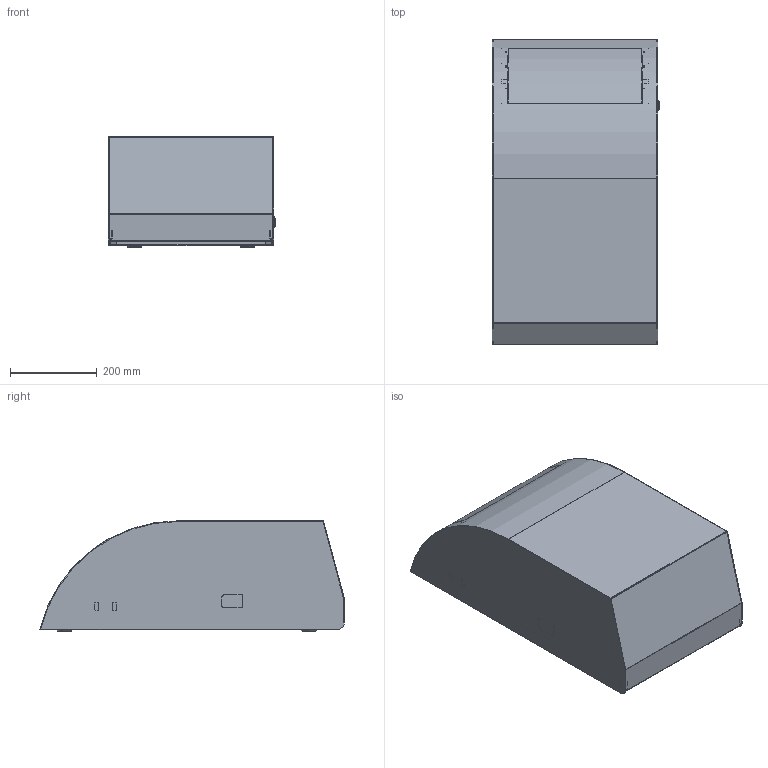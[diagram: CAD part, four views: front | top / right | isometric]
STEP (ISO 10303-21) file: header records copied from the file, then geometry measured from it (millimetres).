
FILE_DESCRIPTION((''),'2;1');
FILE_NAME('X:\Standardvarer\Affaldsbokse og hygiejneboxe\284 Dan Dryer Design Affaldsbeholder\Tegninger\Public 3D files\284 DAN DRYER DESIGN waste bin.stp','2012-03-27T13:16:04',('Dan Dryer'),(''),'Autodesk Inventor 2011','Autodesk Inventor 2011','');
FILE_SCHEMA(('AUTOMOTIVE_DESIGN { 1 0 10303 214 1 1 1 1 }'));
Products named in the file (25): DD-291107-100 - slet; DD-291107-90; DD-291107-91; DD-291107-92; DD-291107-93; DD-291107-95; DD-291107-11; DD-291107-13; DD-291107-12; DD-291107-14; DD-291107-50; DD-291107-15; DD-291107-96; DD-291107-40; DD-291107-41; DD-291107-42; DD-291107-43; DD-291107-70; DD-291107-71; DD-291107-85; DD-291107-88; DD-101207-87; DD-291107-86; AdaptiveGoundEndSpring; AJL-lås
Assembly tree (26 placements, depth 3):
  DD-291107-100 - slet
    DD-291107-90
      DD-291107-91
      DD-291107-92
      DD-291107-93
    DD-291107-95
      DD-291107-11
      DD-291107-13
      DD-291107-12
      DD-291107-14
      DD-291107-50
      DD-291107-15
      DD-291107-96  x2
    DD-291107-40
      DD-291107-41
      DD-291107-42  x2
      DD-291107-43
    DD-291107-70
      DD-291107-71
    DD-291107-85
      DD-291107-88
      DD-101207-87
      DD-291107-86
      AdaptiveGoundEndSpring
    AJL-lås
Bounding box: 384.5 x 700.1 x 254.18 mm (x, y, z)
Volume: 2319070.6 mm3; surface area: 3258678.9 mm2
Topology: 21 solids, 22 shells, 707 faces, 1821 edges, 1176 vertices
Faces by surface type: plane 372, cylinder 278, cone 24, bspline 17, torus 16
Full cylindrical faces by diameter (mm): 5 x2, 6 x5, 6.5 x4, 7 x3, 7.3 x1, 8.2 x4, 8.3 x1, 10 x1, 16 x1, 25 x2
Entity records: 23941 total; most frequent: CARTESIAN_POINT 6828, DIRECTION 3550, ORIENTED_EDGE 3290, EDGE_CURVE 1647, AXIS2_PLACEMENT_3D 1245, VERTEX_POINT 1100, VECTOR 1060, LINE 1060
